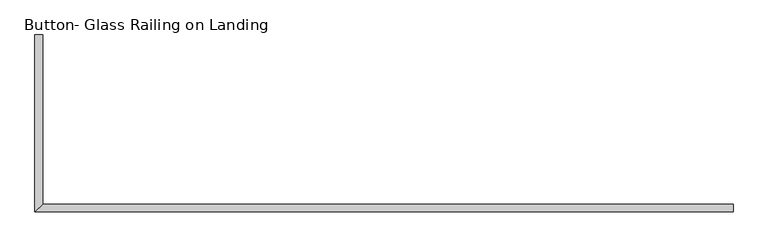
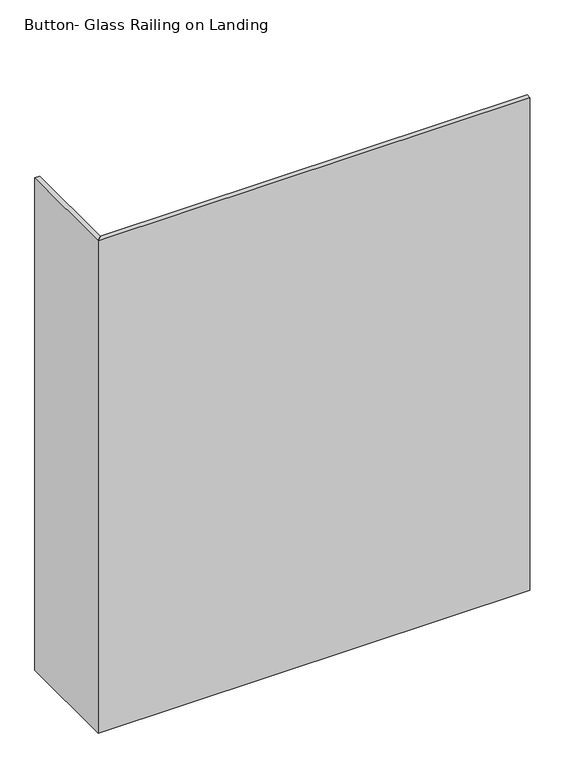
"""IFC4 building model written with IfcOpenShell, lengths in millimetres: railing geometry, Button- Glass Railing on Landing."""

from ifc_helpers import new_model, si_unit, frame, origin, place, context, project, spatial, polyline, outline, extrude, source, transform, mapped, element, save


def button_glass_railing_on_landing_224fd9d0(model_context):
    return source(origin(), model_context, "Body", "SweptSolid", [
        extrude(outline(polyline([(3129.7076518, 2194.3994253), (3142.4076518, 2194.3994253), (3142.4076518, 1921.3494253), (3129.7076518, 1908.6494253), (3129.7076518, 2194.3994253)])), frame((0.0, 0.0, 2768.6), z_axis=(0.0, 0.0, 1.0), x_axis=(1.0, 0.0, 0.0)), (0.0, 0.0, 1.0), 1358.9),
        extrude(outline(polyline([(3129.7076518, 1908.6494253), (3142.4076518, 1921.3494253), (4256.7627413, 1921.3494253), (4256.7627413, 1908.6494253), (3129.7076518, 1908.6494253)])), frame((0.0, 0.0, 2768.6), z_axis=(0.0, 0.0, 1.0), x_axis=(1.0, 0.0, 0.0)), (0.0, 0.0, 1.0), 1358.9),
    ])


if __name__ == "__main__":
    model = new_model("IFC4")
    model_context = context("Model", 3, world=origin())
    ifc_project = project(units=[si_unit("LENGTHUNIT", "METRE", prefix="MILLI")], contexts=[model_context])
    site = spatial("IfcSite", under=ifc_project)
    building = spatial("IfcBuilding", under=site)
    placement = place(None, origin())
    button_glass_railing_on_landing_shape = button_glass_railing_on_landing_224fd9d0(model_context)
    element("IfcRailing", 1, ObjectType="Button- Glass Railing on Landing", at=placement, inside=building, context=model_context, shape_type="MappedRepresentation", body=[
        mapped(button_glass_railing_on_landing_shape, transform((0.0, 0.0, 0.0), x_axis=(1.0, 0.0, 0.0), y_axis=(0.0, 1.0, 0.0), z_axis=(0.0, 0.0, 1.0))),
    ])
    save(model, "model.ifc")
